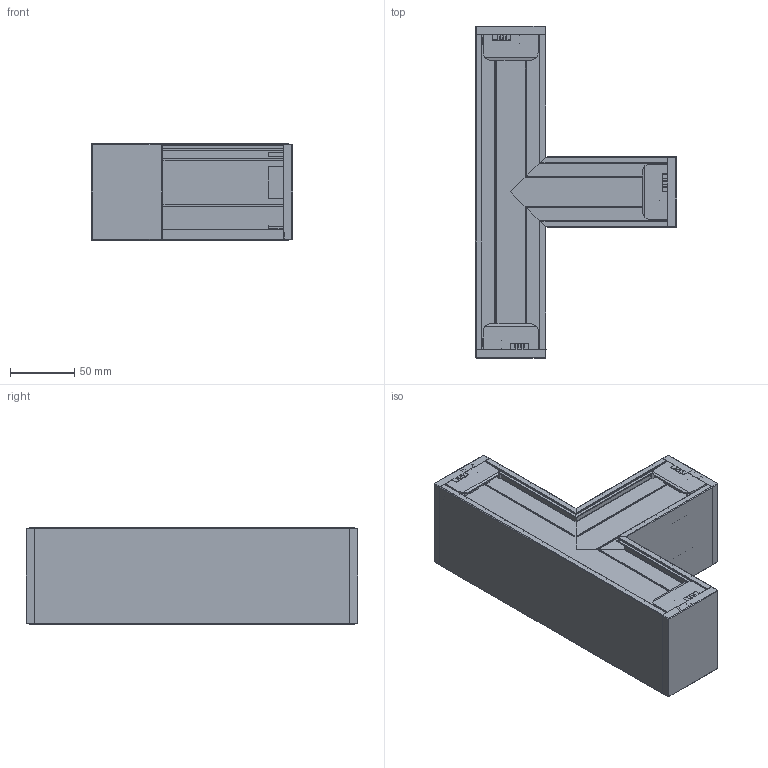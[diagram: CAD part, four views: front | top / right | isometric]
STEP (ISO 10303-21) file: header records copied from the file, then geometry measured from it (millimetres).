
FILE_DESCRIPTION(/* description */ (''),/* implementation_level */ '2;1');
FILE_NAME(/* name */ 'KISST-~1',/* time_stamp */ '2026-04-27T15:49:51+02:00',/* author */ (''),/* organization */ (''),/* preprocessor_version */ 'ST-DEVELOPER v16.5',/* originating_system */ '',/* authorisation */ '');
FILE_SCHEMA (('AUTOMOTIVE_DESIGN'));
Products named in the file (1): Document
Bounding box: 156.74 x 258.48 x 75 mm (x, y, z)
Volume: 207746.8 mm3; surface area: 344051.2 mm2
Topology: 10 solids, 10 shells, 3193 faces, 8819 edges, 5645 vertices
Faces by surface type: bspline 3193
Entity records: 254047 total; most frequent: CARTESIAN_POINT 143060, B_SPLINE_CURVE_WITH_KNOTS 23261, ORIENTED_EDGE 17602, PCURVE 17602, DEFINITIONAL_REPRESENTATION 17602, SURFACE_CURVE 8801, EDGE_CURVE 8801, VERTEX_POINT 5645
